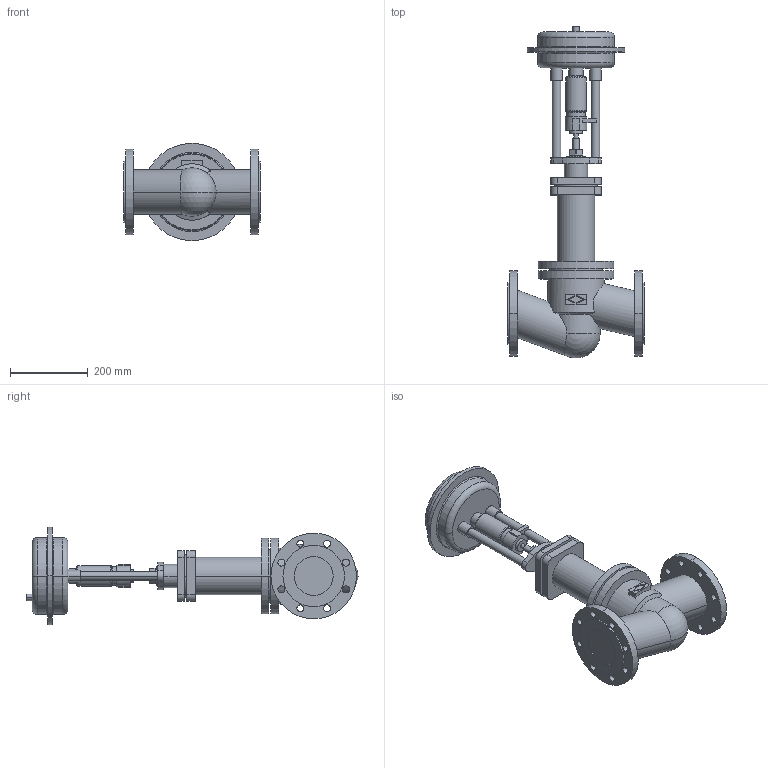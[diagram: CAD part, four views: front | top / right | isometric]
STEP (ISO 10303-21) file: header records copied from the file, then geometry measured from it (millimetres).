
FILE_DESCRIPTION(('OneSpaceDesigner STEP Export'),'2;1');
FILE_NAME('c000000381.stp','2005-12-12T10:37:44',(''),(''),'OneSpace Designer STEP processor for AP203 (Solid Model)','OneSpace Designer 13.20A 18-Aug-2005 (C) CoCreate Software GmbH','');
FILE_SCHEMA(('CONFIG_CONTROL_DESIGN'));
Length unit declared in the file: millimetre
Products named in the file (1): 1
Bounding box: 350 x 854.17 x 250 mm (x, y, z)
Volume: 13185980 mm3; surface area: 755813.8 mm2
Topology: 1 solids, 1 shells, 222 faces, 548 edges, 358 vertices
Faces by surface type: cylinder 116, plane 82, torus 16, cone 6, sphere 2
Entity records: 6224 total; most frequent: CARTESIAN_POINT 1258, ORIENTED_EDGE 1092, DIRECTION 909, EDGE_CURVE 546, VERTEX_POINT 358, AXIS2_PLACEMENT_3D 330, EDGE_LOOP 290, VECTOR 249
